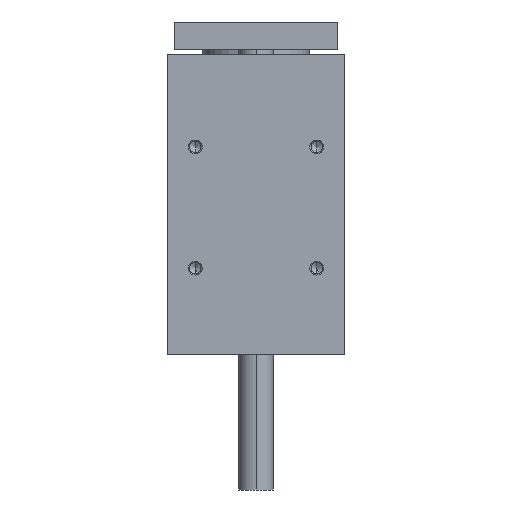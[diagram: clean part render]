
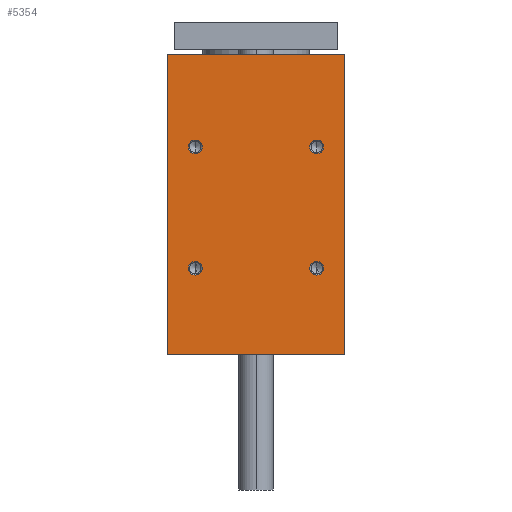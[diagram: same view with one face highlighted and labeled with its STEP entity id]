
A CAD part, left-side view. The second image highlights one B-rep face of the part: STEP entity #5354.
In plain terms, the highlighted planar face has unit normal (-1, 0, 0).
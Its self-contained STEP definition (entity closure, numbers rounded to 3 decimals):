
#14 = CIRCLE ( 'NONE', #2985, 5. ) ;
#20 = DIRECTION ( 'NONE',  ( 0., -1., 0. ) ) ;
#185 = VECTOR ( 'NONE', #6181, 1000. ) ;
#195 = CARTESIAN_POINT ( 'NONE',  ( -106.5, 65., -128. ) ) ;
#267 = EDGE_LOOP ( 'NONE', ( #8607, #2638 ) ) ;
#291 = ORIENTED_EDGE ( 'NONE', *, *, #4579, .T. ) ;
#434 = LINE ( 'NONE', #5601, #185 ) ;
#464 = FACE_BOUND ( 'NONE', #4711, .T. ) ;
#692 = CARTESIAN_POINT ( 'NONE',  ( -106.5, -44.5, -64.5 ) ) ;
#702 = EDGE_CURVE ( 'NONE', #8004, #5758, #5410, .T. ) ;
#980 = VERTEX_POINT ( 'NONE', #8454 ) ;
#1057 = CARTESIAN_POINT ( 'NONE',  ( -106.5, 44.5, -64.5 ) ) ;
#1136 = ORIENTED_EDGE ( 'NONE', *, *, #702, .F. ) ;
#1224 = AXIS2_PLACEMENT_3D ( 'NONE', #195, #8372, #6397 ) ;
#1318 = DIRECTION ( 'NONE',  ( 1., 0., 0. ) ) ;
#1347 = VERTEX_POINT ( 'NONE', #3094 ) ;
#1360 = DIRECTION ( 'NONE',  ( 0., 0., -1. ) ) ;
#1469 = DIRECTION ( 'NONE',  ( 1., 0., 0. ) ) ;
#1543 = CIRCLE ( 'NONE', #5273, 5. ) ;
#1592 = EDGE_LOOP ( 'NONE', ( #4654, #291 ) ) ;
#1732 = EDGE_CURVE ( 'NONE', #8004, #9044, #434, .T. ) ;
#1768 = CARTESIAN_POINT ( 'NONE',  ( -106.5, 65., -128. ) ) ;
#1784 = VECTOR ( 'NONE', #20, 1000. ) ;
#2045 = VERTEX_POINT ( 'NONE', #8321 ) ;
#2168 = CARTESIAN_POINT ( 'NONE',  ( -106.5, 44.5, 19.5 ) ) ;
#2329 = DIRECTION ( 'NONE',  ( 1., 0., 0. ) ) ;
#2512 = AXIS2_PLACEMENT_3D ( 'NONE', #692, #1469, #6472 ) ;
#2638 = ORIENTED_EDGE ( 'NONE', *, *, #7279, .T. ) ;
#2674 = FACE_BOUND ( 'NONE', #267, .T. ) ;
#2717 = EDGE_LOOP ( 'NONE', ( #7949, #5159, #1136, #8490 ) ) ;
#2723 = VERTEX_POINT ( 'NONE', #5241 ) ;
#2751 = VERTEX_POINT ( 'NONE', #7477 ) ;
#2838 = CARTESIAN_POINT ( 'NONE',  ( -106.5, 44.5, -64.5 ) ) ;
#2904 = CARTESIAN_POINT ( 'NONE',  ( -106.5, -65., -128. ) ) ;
#2971 = CIRCLE ( 'NONE', #2512, 5. ) ;
#2985 = AXIS2_PLACEMENT_3D ( 'NONE', #5060, #8022, #1360 ) ;
#3094 = CARTESIAN_POINT ( 'NONE',  ( -106.5, 44.5, -59.5 ) ) ;
#3116 = AXIS2_PLACEMENT_3D ( 'NONE', #8805, #8665, #8029 ) ;
#3134 = EDGE_CURVE ( 'NONE', #5758, #2045, #8195, .T. ) ;
#3199 = ORIENTED_EDGE ( 'NONE', *, *, #6755, .T. ) ;
#3427 = CIRCLE ( 'NONE', #7621, 5. ) ;
#3608 = DIRECTION ( 'NONE',  ( 0., 0., -1. ) ) ;
#3659 = CARTESIAN_POINT ( 'NONE',  ( -106.5, 65., -128. ) ) ;
#3686 = DIRECTION ( 'NONE',  ( 1., 0., 0. ) ) ;
#3705 = AXIS2_PLACEMENT_3D ( 'NONE', #1057, #6263, #7630 ) ;
#3786 = DIRECTION ( 'NONE',  ( 0., 0., -1. ) ) ;
#3986 = EDGE_CURVE ( 'NONE', #1347, #5826, #6345, .T. ) ;
#4130 = EDGE_CURVE ( 'NONE', #9044, #2045, #7273, .T. ) ;
#4212 = AXIS2_PLACEMENT_3D ( 'NONE', #6551, #1318, #5734 ) ;
#4452 = CARTESIAN_POINT ( 'NONE',  ( -106.5, 65., 92. ) ) ;
#4579 = EDGE_CURVE ( 'NONE', #6384, #980, #1543, .T. ) ;
#4633 = EDGE_CURVE ( 'NONE', #2723, #5438, #4817, .T. ) ;
#4654 = ORIENTED_EDGE ( 'NONE', *, *, #7230, .T. ) ;
#4711 = EDGE_LOOP ( 'NONE', ( #3199, #7723 ) ) ;
#4817 = CIRCLE ( 'NONE', #9626, 5. ) ;
#4904 = FACE_BOUND ( 'NONE', #5265, .T. ) ;
#5060 = CARTESIAN_POINT ( 'NONE',  ( -106.5, 44.5, 24.5 ) ) ;
#5085 = DIRECTION ( 'NONE',  ( 0., 0., 1. ) ) ;
#5159 = ORIENTED_EDGE ( 'NONE', *, *, #3134, .F. ) ;
#5241 = CARTESIAN_POINT ( 'NONE',  ( -106.5, 44.5, 29.5 ) ) ;
#5258 = CARTESIAN_POINT ( 'NONE',  ( -106.5, -44.5, 19.5 ) ) ;
#5265 = EDGE_LOOP ( 'NONE', ( #8427, #7727 ) ) ;
#5273 = AXIS2_PLACEMENT_3D ( 'NONE', #5969, #3686, #3786 ) ;
#5354 = ADVANCED_FACE ( 'NONE', ( #9376, #464, #4904, #6173, #2674 ), #6908, .F. ) ;
#5410 = LINE ( 'NONE', #1768, #8164 ) ;
#5438 = VERTEX_POINT ( 'NONE', #2168 ) ;
#5530 = CARTESIAN_POINT ( 'NONE',  ( -106.5, 65., 92. ) ) ;
#5601 = CARTESIAN_POINT ( 'NONE',  ( -106.5, 65., -128. ) ) ;
#5734 = DIRECTION ( 'NONE',  ( 0., 0., -1. ) ) ;
#5758 = VERTEX_POINT ( 'NONE', #5530 ) ;
#5826 = VERTEX_POINT ( 'NONE', #7758 ) ;
#5969 = CARTESIAN_POINT ( 'NONE',  ( -106.5, -44.5, 24.5 ) ) ;
#6173 = FACE_BOUND ( 'NONE', #1592, .T. ) ;
#6181 = DIRECTION ( 'NONE',  ( 0., -1., 0. ) ) ;
#6226 = EDGE_CURVE ( 'NONE', #7448, #2751, #8074, .T. ) ;
#6239 = EDGE_CURVE ( 'NONE', #5826, #1347, #3427, .T. ) ;
#6263 = DIRECTION ( 'NONE',  ( 1., 0., 0. ) ) ;
#6345 = CIRCLE ( 'NONE', #3705, 5. ) ;
#6384 = VERTEX_POINT ( 'NONE', #5258 ) ;
#6397 = DIRECTION ( 'NONE',  ( 0., 1., 0. ) ) ;
#6472 = DIRECTION ( 'NONE',  ( 0., 0., -1. ) ) ;
#6551 = CARTESIAN_POINT ( 'NONE',  ( -106.5, -44.5, 24.5 ) ) ;
#6704 = CARTESIAN_POINT ( 'NONE',  ( -106.5, -44.5, -69.5 ) ) ;
#6755 = EDGE_CURVE ( 'NONE', #2751, #7448, #2971, .T. ) ;
#6791 = CARTESIAN_POINT ( 'NONE',  ( -106.5, 44.5, 24.5 ) ) ;
#6908 = PLANE ( 'NONE',  #1224 ) ;
#7012 = CIRCLE ( 'NONE', #4212, 5. ) ;
#7230 = EDGE_CURVE ( 'NONE', #980, #6384, #7012, .T. ) ;
#7273 = LINE ( 'NONE', #9563, #8524 ) ;
#7279 = EDGE_CURVE ( 'NONE', #5438, #2723, #14, .T. ) ;
#7448 = VERTEX_POINT ( 'NONE', #6704 ) ;
#7477 = CARTESIAN_POINT ( 'NONE',  ( -106.5, -44.5, -59.5 ) ) ;
#7621 = AXIS2_PLACEMENT_3D ( 'NONE', #2838, #8762, #3608 ) ;
#7630 = DIRECTION ( 'NONE',  ( 0., 0., -1. ) ) ;
#7723 = ORIENTED_EDGE ( 'NONE', *, *, #6226, .T. ) ;
#7727 = ORIENTED_EDGE ( 'NONE', *, *, #6239, .T. ) ;
#7758 = CARTESIAN_POINT ( 'NONE',  ( -106.5, 44.5, -69.5 ) ) ;
#7949 = ORIENTED_EDGE ( 'NONE', *, *, #4130, .T. ) ;
#8004 = VERTEX_POINT ( 'NONE', #3659 ) ;
#8022 = DIRECTION ( 'NONE',  ( 1., 0., 0. ) ) ;
#8029 = DIRECTION ( 'NONE',  ( 0., 0., -1. ) ) ;
#8074 = CIRCLE ( 'NONE', #3116, 5. ) ;
#8164 = VECTOR ( 'NONE', #8513, 1000. ) ;
#8195 = LINE ( 'NONE', #4452, #1784 ) ;
#8207 = DIRECTION ( 'NONE',  ( 0., 0., -1. ) ) ;
#8321 = CARTESIAN_POINT ( 'NONE',  ( -106.5, -65., 92. ) ) ;
#8372 = DIRECTION ( 'NONE',  ( 1., 0., 0. ) ) ;
#8427 = ORIENTED_EDGE ( 'NONE', *, *, #3986, .T. ) ;
#8454 = CARTESIAN_POINT ( 'NONE',  ( -106.5, -44.5, 29.5 ) ) ;
#8490 = ORIENTED_EDGE ( 'NONE', *, *, #1732, .T. ) ;
#8513 = DIRECTION ( 'NONE',  ( 0., 0., 1. ) ) ;
#8524 = VECTOR ( 'NONE', #5085, 1000. ) ;
#8607 = ORIENTED_EDGE ( 'NONE', *, *, #4633, .T. ) ;
#8665 = DIRECTION ( 'NONE',  ( 1., 0., 0. ) ) ;
#8762 = DIRECTION ( 'NONE',  ( 1., 0., 0. ) ) ;
#8805 = CARTESIAN_POINT ( 'NONE',  ( -106.5, -44.5, -64.5 ) ) ;
#9044 = VERTEX_POINT ( 'NONE', #2904 ) ;
#9376 = FACE_OUTER_BOUND ( 'NONE', #2717, .T. ) ;
#9563 = CARTESIAN_POINT ( 'NONE',  ( -106.5, -65., -128. ) ) ;
#9626 = AXIS2_PLACEMENT_3D ( 'NONE', #6791, #2329, #8207 ) ;
